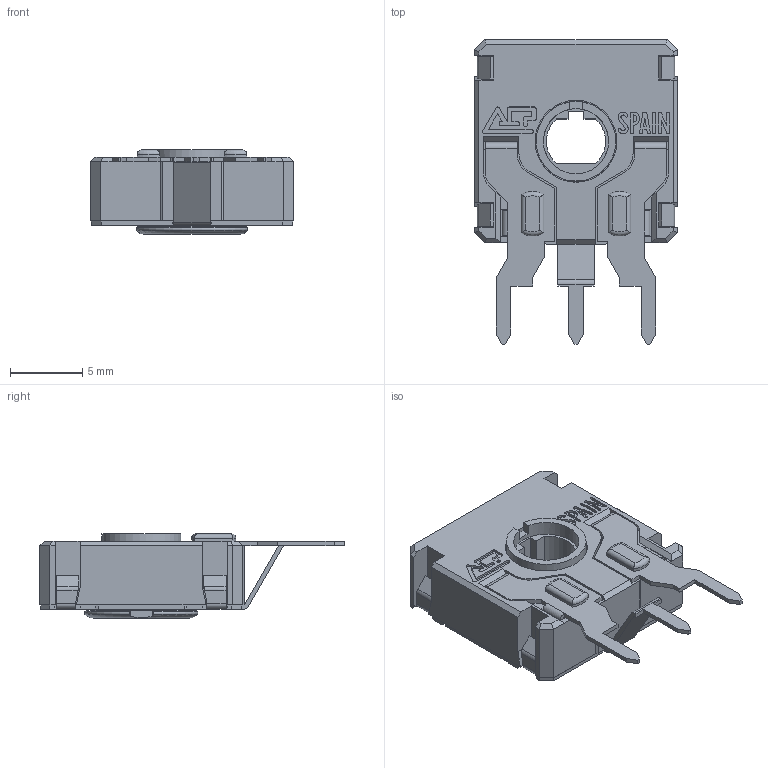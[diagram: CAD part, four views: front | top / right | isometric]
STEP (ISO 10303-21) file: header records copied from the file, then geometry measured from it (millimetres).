
FILE_DESCRIPTION(/* description */ (''),/* implementation_level */ '2;1');
FILE_NAME(/* name */ 'C:\Users\CEM\Desktop\ENVIAR\TRANSICION 3D CATALOGOS\CS14TH0.stp',/* time_stamp */ '2025-10-24T17:50:15+02:00',/* author */ ('CEM'),/* organization */ (''),/* preprocessor_version */ 'ST-DEVELOPER v17',/* originating_system */ 'Autodesk Inventor 2018',/* authorisation */ '');
FILE_SCHEMA (('AUTOMOTIVE_DESIGN { 1 0 10303 214 3 1 1 }'));
Length unit declared in the file: millimetre
Products named in the file (1): CS14TH0
Bounding box: 14 x 21 x 5.8 mm (x, y, z)
Volume: 546.6 mm3; surface area: 1593 mm2
Topology: 1 solids, 3 shells, 708 faces, 1985 edges, 1284 vertices
Faces by surface type: plane 539, cylinder 130, cone 17, torus 12, bspline 10
Full cylindrical faces by diameter (mm): 4.5 x1, 5.5 x1, 5.65 x1, 6.87 x1
Entity records: 23607 total; most frequent: CARTESIAN_POINT 4409, ORIENTED_EDGE 3970, DIRECTION 3679, EDGE_CURVE 1985, LINE 1571, VECTOR 1571, VERTEX_POINT 1284, AXIS2_PLACEMENT_3D 1054
